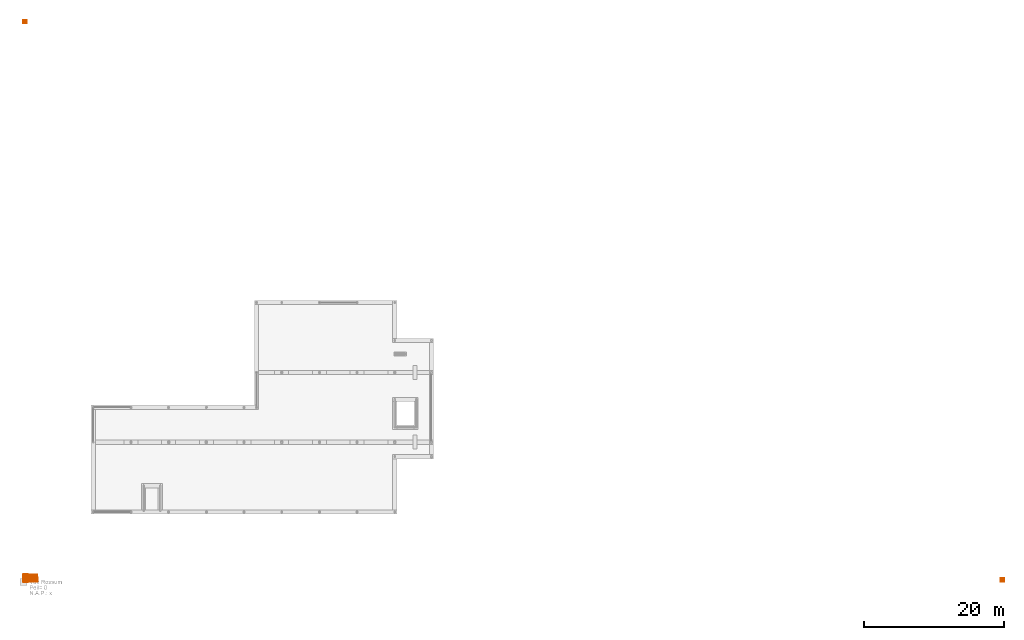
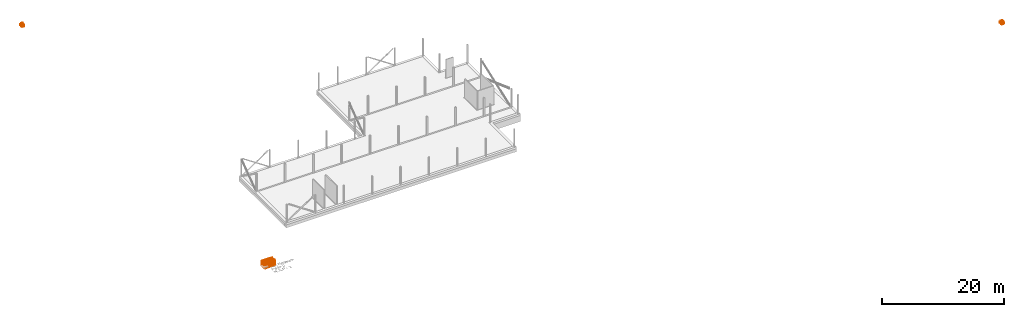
# One storey, part 12 of 12: 1 proxy.
"""IFC2X3 building model written with IfcOpenShell, lengths in millimetres."""

from ifc_helpers import new_model, entity, si_unit, converted_unit, derived_unit, direction, frame, frame_2d, origin, origin_2d_with_axis, place, context, subcontext, project, spatial, polyline, rectangle, outline, extrude, source, transform, mapped, material, material_list, type_object, type_shapes, element, save


model = new_model("IFC2X3")

# Units and contexts
model_context = context("Model", 3, precision=0.01, world=origin(), true_north=direction((6.123031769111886e-17, 1.0)))
body_context = subcontext(model_context, "Body", "Model", "MODEL_VIEW")
ifc_project = project(units=[si_unit("LENGTHUNIT", "METRE", prefix="MILLI"), si_unit("AREAUNIT", "SQUARE_METRE"), si_unit("VOLUMEUNIT", "CUBIC_METRE"), converted_unit("PLANEANGLEUNIT", "DEGREE", entity("IfcPlaneAngleMeasure", 0.017453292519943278), si_unit("PLANEANGLEUNIT", "RADIAN"), dimensions=[0, 0, 0, 0, 0, 0, 0]), si_unit("MASSUNIT", "GRAM", prefix="KILO"), derived_unit("MASSDENSITYUNIT", [(si_unit("MASSUNIT", "GRAM", prefix="KILO"), 1), (si_unit("LENGTHUNIT", "METRE"), -3)]), derived_unit("IONCONCENTRATIONUNIT", [(si_unit("MASSUNIT", "GRAM", prefix="KILO"), 1), (si_unit("LENGTHUNIT", "METRE"), -3)]), derived_unit("MOMENTOFINERTIAUNIT", [(si_unit("LENGTHUNIT", "METRE"), 4)]), si_unit("TIMEUNIT", "SECOND"), si_unit("FREQUENCYUNIT", "HERTZ"), si_unit("THERMODYNAMICTEMPERATUREUNIT", "DEGREE_CELSIUS"), derived_unit("THERMALTRANSMITTANCEUNIT", [(si_unit("MASSUNIT", "GRAM", prefix="KILO"), 1), (si_unit("THERMODYNAMICTEMPERATUREUNIT", "KELVIN"), -1), (si_unit("TIMEUNIT", "SECOND"), -3)]), derived_unit("THERMALCONDUCTANCEUNIT", [(si_unit("MASSUNIT", "GRAM", prefix="KILO"), 1), (si_unit("THERMODYNAMICTEMPERATUREUNIT", "KELVIN"), -1), (si_unit("TIMEUNIT", "SECOND"), -3), (si_unit("LENGTHUNIT", "METRE"), 1)]), derived_unit("VOLUMETRICFLOWRATEUNIT", [(si_unit("LENGTHUNIT", "METRE", prefix="DECI"), 3), (si_unit("TIMEUNIT", "SECOND"), -1)]), derived_unit("MASSFLOWRATEUNIT", [(si_unit("MASSUNIT", "GRAM", prefix="KILO"), 1), (si_unit("TIMEUNIT", "SECOND"), -1)]), derived_unit("ROTATIONALFREQUENCYUNIT", [(si_unit("TIMEUNIT", "SECOND"), -1)]), si_unit("ELECTRICCURRENTUNIT", "AMPERE"), si_unit("ELECTRICVOLTAGEUNIT", "VOLT"), si_unit("POWERUNIT", "WATT"), si_unit("FORCEUNIT", "NEWTON", prefix="KILO"), si_unit("ILLUMINANCEUNIT", "LUX"), si_unit("LUMINOUSFLUXUNIT", "LUMEN"), si_unit("LUMINOUSINTENSITYUNIT", "CANDELA"), si_unit("ENERGYUNIT", "JOULE"), derived_unit("USERDEFINED", [(si_unit("MASSUNIT", "GRAM", prefix="KILO"), -1), (si_unit("LENGTHUNIT", "METRE"), -2), (si_unit("TIMEUNIT", "SECOND"), 3), (si_unit("LUMINOUSFLUXUNIT", "LUMEN"), 1)]), derived_unit("USERDEFINED", [(si_unit("MASSUNIT", "GRAM", prefix="KILO"), 1), (si_unit("TIMEUNIT", "SECOND"), -3), (si_unit("LENGTHUNIT", "METRE"), 3), (si_unit("ELECTRICCURRENTUNIT", "AMPERE"), -2)]), derived_unit("SOUNDPOWERUNIT", [(si_unit("MASSUNIT", "GRAM", prefix="KILO"), 1), (si_unit("TIMEUNIT", "SECOND"), -3), (si_unit("LENGTHUNIT", "METRE"), 2)]), derived_unit("SOUNDPRESSUREUNIT", [(si_unit("MASSUNIT", "GRAM", prefix="KILO"), 1), (si_unit("LENGTHUNIT", "METRE"), -1), (si_unit("TIMEUNIT", "SECOND"), -2)]), derived_unit("LINEARVELOCITYUNIT", [(si_unit("LENGTHUNIT", "METRE"), 1), (si_unit("TIMEUNIT", "SECOND"), -1)]), si_unit("PRESSUREUNIT", "PASCAL"), derived_unit("USERDEFINED", [(si_unit("MASSUNIT", "GRAM", prefix="KILO"), 1), (si_unit("LENGTHUNIT", "METRE"), -2), (si_unit("TIMEUNIT", "SECOND"), -2)]), derived_unit("LINEARFORCEUNIT", [(si_unit("MASSUNIT", "GRAM", prefix="KILO"), 1), (si_unit("TIMEUNIT", "SECOND"), -2)]), derived_unit("PLANARFORCEUNIT", [(si_unit("MASSUNIT", "GRAM", prefix="KILO"), 1), (si_unit("LENGTHUNIT", "METRE"), -1), (si_unit("TIMEUNIT", "SECOND"), -2)]), derived_unit("SPECIFICHEATCAPACITYUNIT", [(si_unit("THERMODYNAMICTEMPERATUREUNIT", "KELVIN"), -1), (si_unit("LENGTHUNIT", "METRE"), 2), (si_unit("TIMEUNIT", "SECOND"), -2)]), derived_unit("HEATFLUXDENSITYUNIT", [(si_unit("MASSUNIT", "GRAM", prefix="KILO"), 1), (si_unit("TIMEUNIT", "SECOND"), -3)]), derived_unit("HEATINGVALUEUNIT", [(si_unit("LENGTHUNIT", "METRE"), 2), (si_unit("TIMEUNIT", "SECOND"), -2)]), derived_unit("VAPORPERMEABILITYUNIT", [(si_unit("LENGTHUNIT", "METRE"), -1), (si_unit("TIMEUNIT", "SECOND"), 1)]), derived_unit("DYNAMICVISCOSITYUNIT", [(si_unit("MASSUNIT", "GRAM", prefix="KILO"), 1), (si_unit("TIMEUNIT", "SECOND"), -1), (si_unit("LENGTHUNIT", "METRE"), -1)]), derived_unit("THERMALEXPANSIONCOEFFICIENTUNIT", [(si_unit("THERMODYNAMICTEMPERATUREUNIT", "KELVIN"), -1)]), derived_unit("MODULUSOFELASTICITYUNIT", [(si_unit("MASSUNIT", "GRAM", prefix="KILO"), 1), (si_unit("LENGTHUNIT", "METRE"), -1), (si_unit("TIMEUNIT", "SECOND"), -2)]), derived_unit("ISOTHERMALMOISTURECAPACITYUNIT", [(si_unit("MASSUNIT", "GRAM", prefix="KILO"), -1), (si_unit("LENGTHUNIT", "METRE"), 3)]), derived_unit("MOISTUREDIFFUSIVITYUNIT", [(si_unit("TIMEUNIT", "SECOND"), -1), (si_unit("LENGTHUNIT", "METRE"), 2)]), derived_unit("MASSPERLENGTHUNIT", [(si_unit("MASSUNIT", "GRAM", prefix="KILO"), 1), (si_unit("LENGTHUNIT", "METRE"), -1)]), derived_unit("THERMALRESISTANCEUNIT", [(si_unit("MASSUNIT", "GRAM", prefix="KILO"), -1), (si_unit("TIMEUNIT", "SECOND"), 3), (si_unit("THERMODYNAMICTEMPERATUREUNIT", "KELVIN"), 1)]), derived_unit("ACCELERATIONUNIT", [(si_unit("LENGTHUNIT", "METRE"), 1), (si_unit("TIMEUNIT", "SECOND"), -2)]), derived_unit("ANGULARVELOCITYUNIT", [(si_unit("TIMEUNIT", "SECOND"), -1), (si_unit("PLANEANGLEUNIT", "RADIAN"), 1)]), derived_unit("LINEARSTIFFNESSUNIT", [(si_unit("MASSUNIT", "GRAM", prefix="KILO"), 1), (si_unit("TIMEUNIT", "SECOND"), -2)]), derived_unit("WARPINGCONSTANTUNIT", [(si_unit("LENGTHUNIT", "METRE"), 6)]), derived_unit("LINEARMOMENTUNIT", [(si_unit("MASSUNIT", "GRAM", prefix="KILO"), 1), (si_unit("LENGTHUNIT", "METRE"), 1), (si_unit("TIMEUNIT", "SECOND"), -2)]), derived_unit("TORQUEUNIT", [(si_unit("MASSUNIT", "GRAM", prefix="KILO"), 1), (si_unit("LENGTHUNIT", "METRE"), 2), (si_unit("TIMEUNIT", "SECOND"), -2)])], contexts=[model_context])

# Site, building, storey
site_placement = place(None, origin())
site = spatial("IfcSite", under=ifc_project, at=site_placement, Name="Default", CompositionType="ELEMENT")
building_placement = place(site_placement, origin())
building = spatial("IfcBuilding", under=site, at=building_placement, CompositionType="ELEMENT")
storey_placement = place(building_placement, origin())
storey = spatial("IfcBuildingStorey", under=building, at=storey_placement, Name="00 begane grond", CompositionType="ELEMENT", Elevation=0.0)

# Proxy
ifc_material_1 = material(Name="VRI_tekst")
ifc_material_2 = material(Name="VRI_nulpunt")
ifc_material_list = material_list([ifc_material_1, ifc_material_2])
building_element_proxy_type = type_object("IfcBuildingElementProxyType", Name="000_00_VRI_nulpunt_1:000_00_VRI_nulpunt_1", PredefinedType="NOTDEFINED", material=ifc_material_list)
shared_shape = source(origin(), body_context, "Body", "SweptSolid", [
    extrude(outline(polyline([(-14.262820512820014, -127.89797008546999), (17.528044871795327, -127.89797008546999), (111.3381410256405, 118.25587606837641), (78.40544871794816, 118.25587606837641), (12.660256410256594, -59.08787393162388), (-0.4407051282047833, -99.05181623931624), (-13.721955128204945, -59.08787393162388), (-79.28685897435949, 118.2558760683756), (-112.21955128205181, 118.2558760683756), (-14.262820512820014, -127.89797008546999)])), frame((488.22986288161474, 1000.0, 763.3739638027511), z_axis=(0.0, 1.0, 0.0), x_axis=(-1.0, 0.0, 0.0)), (0.0, 0.0, 1.0), 50.0),
    extrude(outline(polyline([(-126.35779747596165, -126.81540464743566), (-95.58856670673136, -126.81540464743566), (-95.58856670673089, -19.12309695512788), (-58.44914362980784, -19.12309695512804), (-40.600585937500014, -20.2048277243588), (-25.96717247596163, -26.06420272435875), (-9.711162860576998, -42.01973157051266), (13.425856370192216, -75.79377003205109), (45.45710637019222, -126.81540464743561), (81.2143179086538, -126.81540464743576), (40.16864483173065, -60.10867387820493), (15.228740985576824, -28.438000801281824), (-2.2592397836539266, -15.276943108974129), (28.051757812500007, -7.118890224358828), (49.27321213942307, 7.619691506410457), (61.78072415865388, 27.721854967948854), (65.94989483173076, 51.9706530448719), (63.433368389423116, 71.46434294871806), (55.883789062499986, 89.20022035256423), (44.119966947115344, 103.5031049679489), (28.96071213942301, 112.69781650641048), (8.220027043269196, 117.67828525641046), (-20.288085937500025, 119.33844150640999), (-126.35779747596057, 119.33844150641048), (-126.35779747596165, -126.81540464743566)]), holes=[polyline([(-95.58856670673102, 11.646133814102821), (-95.58856670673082, 88.56921073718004), (-18.96597055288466, 88.5692107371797), (5.380483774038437, 85.90995592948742), (22.169846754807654, 77.93219150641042), (31.927959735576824, 65.83784054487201), (35.18066406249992, 50.828826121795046), (33.47543569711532, 39.958934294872), (28.359750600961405, 29.945412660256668), (19.961313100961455, 21.667167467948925), (8.407827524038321, 16.00310496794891), (-26.71837439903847, 11.646133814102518), (-95.58856670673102, 11.646133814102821)])]), frame((221.92815514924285, 1000.0, 762.2913983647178), z_axis=(0.0, 1.0, 0.0), x_axis=(-1.0, 0.0, 0.0)), (0.0, 0.0, 1.0), 50.0),
    extrude(rectangle(XDim=50.0, YDim=30.76923076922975, at=frame_2d((-6.750155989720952e-14, 0.0), x_axis=(1.0, 0.0))), frame((82.90133724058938, 1025.0, 635.4759937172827), z_axis=(0.0, 0.0, 1.0), x_axis=(0.0, -1.0, 0.0)), (0.0, 0.0, 1.0), 246.15384615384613),
    extrude(outline(polyline([(-14.262820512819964, -127.89797008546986), (17.52804487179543, -127.89797008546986), (111.3381410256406, 118.25587606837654), (78.40544871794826, 118.25587606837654), (12.660256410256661, -59.08787393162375), (-0.44070512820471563, -99.05181623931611), (-13.72195512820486, -59.08787393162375), (-79.28685897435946, 118.25587606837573), (-112.21955128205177, 118.25587606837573), (-14.262820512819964, -127.89797008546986)])), frame((2000.0, 165.19126889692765, 776.3433876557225), z_axis=(1.0, 0.0, 0.0), x_axis=(0.0, 1.0, 0.0)), (0.0, 0.0, 1.0), 50.0),
    extrude(outline(polyline([(-126.35779747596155, -126.8154046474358), (-95.58856670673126, -126.8154046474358), (-95.58856670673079, -19.123096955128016), (-58.44914362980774, -19.123096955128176), (-40.600585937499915, -20.204827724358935), (-25.967172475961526, -26.064202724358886), (-9.711162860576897, -42.019731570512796), (13.425856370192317, -75.79377003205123), (45.45710637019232, -126.81540464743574), (81.2143179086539, -126.8154046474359), (40.16864483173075, -60.10867387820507), (15.228740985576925, -28.43800080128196), (-2.2592397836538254, -15.276943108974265), (28.051757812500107, -7.118890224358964), (49.27321213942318, 7.619691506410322), (61.78072415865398, 27.72185496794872), (65.94989483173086, 51.97065304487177), (63.433368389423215, 71.46434294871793), (55.883789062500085, 89.2002203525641), (44.11996694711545, 103.50310496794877), (28.960712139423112, 112.69781650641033), (8.220027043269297, 117.67828525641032), (-20.288085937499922, 119.33844150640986), (-126.35779747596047, 119.33844150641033), (-126.35779747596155, -126.8154046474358)]), holes=[polyline([(-95.58856670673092, 11.646133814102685), (-95.58856670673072, 88.5692107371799), (-18.965970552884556, 88.56921073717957), (5.380483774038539, 85.9099559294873), (22.169846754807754, 77.93219150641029), (31.927959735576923, 65.83784054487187), (35.18066406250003, 50.82882612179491), (33.47543569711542, 39.95893429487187), (28.359750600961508, 29.945412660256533), (19.961313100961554, 21.66716746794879), (8.407827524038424, 16.003104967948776), (-26.718374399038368, 11.646133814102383), (-95.58856670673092, 11.646133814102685)])]), frame((2000.0, 431.4929766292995, 775.2608222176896), z_axis=(1.0, 0.0, 0.0), x_axis=(0.0, 1.0, 0.0)), (0.0, 0.0, 1.0), 50.0),
    extrude(rectangle(XDim=50.0, YDim=30.76923076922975, at=frame_2d((1.3500311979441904e-13, 3.375077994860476e-14), x_axis=(1.0, 0.0))), frame((2025.0, 570.5197945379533, 648.4454175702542), z_axis=(0.0, 0.0, 1.0), x_axis=(-1.0, 0.0, 0.0)), (0.0, 0.0, 1.0), 246.15384615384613),
    extrude(outline(polyline([(-113.56049187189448, -60.54199771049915), (151.36824775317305, -60.54199771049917), (139.1914681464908, -29.94316993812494), (-49.826793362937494, -34.597103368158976), (-91.86929110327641, -37.03363165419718), (-59.5815492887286, -10.084538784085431), (80.88513659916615, 116.57384479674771), (68.70835699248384, 147.17267256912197), (-125.31508386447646, -31.004078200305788), (-113.56049187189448, -60.54199771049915)])), frame((-50.0, 516.7560067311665, 775.4731968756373), z_axis=(1.0, 0.0, 0.0), x_axis=(0.0, 0.3697474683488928, 0.9291322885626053)), (0.0, 0.0, 1.0), 50.0),
    extrude(outline(polyline([(-126.81540464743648, -126.35779747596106), (119.33844150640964, -126.35779747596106), (119.33844150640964, -20.288085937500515), (117.67828525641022, 8.220027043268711), (112.69781650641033, 28.96071213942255), (103.50310496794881, 44.119966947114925), (89.20022035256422, 55.88378906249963), (71.46434294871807, 63.43336838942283), (51.970653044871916, 65.94989483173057), (27.721854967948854, 61.7807241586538), (7.619691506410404, 49.27321213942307), (-7.118890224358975, 28.051757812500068), (-15.276943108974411, -2.259239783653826), (-28.438000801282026, 15.228740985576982), (-60.108673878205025, 40.168644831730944), (-126.81540464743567, 81.2143179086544), (-126.81540464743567, 45.45710637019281), (-75.7937700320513, 13.425856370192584), (-42.019731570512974, -9.711162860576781), (-26.064202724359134, -25.96717247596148), (-20.204827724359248, -40.600585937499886), (-19.12309695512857, -58.44914362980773), (-19.12309695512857, -95.58856670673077), (-126.81540464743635, -95.58856670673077), (-126.81540464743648, -126.35779747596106)]), holes=[polyline([(11.646133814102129, -95.58856670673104), (11.646133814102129, -26.71837439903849), (16.003104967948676, 8.407827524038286), (21.667167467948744, 19.96131310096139), (29.945412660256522, 28.35975060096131), (39.958934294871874, 33.47543569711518), (50.82882612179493, 35.18066406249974), (65.83784054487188, 31.927959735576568), (77.93219150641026, 22.169846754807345), (85.90995592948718, 5.380483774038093), (88.56921073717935, -18.965970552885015), (88.56921073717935, -95.58856670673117), (11.646133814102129, -95.58856670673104)])]), frame((-50.0, 250.45429899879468, 774.3906314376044), z_axis=(1.0, 0.0, 0.0), x_axis=(0.0, 0.0, 1.0)), (0.0, 0.0, 1.0), 50.000000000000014),
    extrude(rectangle(XDim=50.0, YDim=30.76923076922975, at=frame_2d((0.0, -8.881784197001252e-15), x_axis=(1.0, 0.0))), frame((-25.0, 111.42748109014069, 647.575226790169)), (0.0, 0.0, 1.0), 246.15384615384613),
    extrude(outline(polyline([(-113.56049187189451, -60.54199771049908), (151.3682477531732, -60.54199771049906), (139.19146814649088, -29.94316993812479), (-49.82679336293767, -34.59710336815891), (-91.86929110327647, -37.033631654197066), (-59.58154928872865, -10.084538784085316), (80.88513659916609, 116.57384479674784), (68.70835699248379, 147.1726725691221), (-125.3150838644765, -31.00407820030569), (-113.56049187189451, -60.54199771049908)])), frame((177.68934770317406, -50.0, 763.2188166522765), z_axis=(0.0, 1.0, 0.0), x_axis=(-0.36974746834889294, 0.0, 0.9291322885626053)), (0.0, 0.0, 1.0), 50.0),
    extrude(outline(polyline([(-126.81540464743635, -126.35779747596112), (119.33844150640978, -126.35779747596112), (119.33844150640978, -20.288085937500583), (117.67828525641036, 8.220027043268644), (112.69781650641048, 28.96071213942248), (103.50310496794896, 44.119966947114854), (89.20022035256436, 55.88378906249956), (71.46434294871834, 63.43336838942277), (51.970653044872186, 65.9498948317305), (27.721854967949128, 61.780724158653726), (7.619691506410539, 49.27321213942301), (-7.1188902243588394, 28.0517578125), (-15.276943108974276, -2.2592397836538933), (-28.43800080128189, 15.228740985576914), (-60.10867387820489, 40.16864483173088), (-126.81540464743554, 81.21431790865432), (-126.81540464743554, 45.45710637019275), (-75.79377003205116, 13.425856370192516), (-42.01973157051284, -9.711162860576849), (-26.064202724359, -25.967172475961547), (-20.204827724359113, -40.60058593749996), (-19.123096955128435, -58.44914362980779), (-19.123096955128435, -95.58856670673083), (-126.81540464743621, -95.58856670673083), (-126.81540464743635, -126.35779747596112)]), holes=[polyline([(11.646133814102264, -95.5885667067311), (11.646133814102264, -26.718374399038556), (16.00310496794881, 8.407827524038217), (21.66716746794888, 19.961313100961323), (29.945412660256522, 28.35975060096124), (39.95893429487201, 33.47543569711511), (50.82882612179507, 35.180664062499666), (65.83784054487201, 31.9279597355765), (77.93219150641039, 22.169846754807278), (85.90995592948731, 5.380483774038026), (88.56921073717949, -18.965970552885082), (88.56921073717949, -95.58856670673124), (11.646133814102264, -95.5885667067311)])]), frame((443.99105543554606, -50.0, 762.1362512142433), z_axis=(0.0, 1.0, 0.0), x_axis=(0.0, 0.0, 1.0)), (0.0, 0.0, 1.0), 50.0),
    extrude(rectangle(XDim=50.0, YDim=30.76923076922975, at=origin_2d_with_axis()), frame((583.0178733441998, -25.0, 635.3208465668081), z_axis=(0.0, 0.0, 1.0), x_axis=(0.0, 1.0, 0.0)), (0.0, 0.0, 1.0), 246.15384615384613),
    extrude(rectangle(XDim=499.9999999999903, YDim=500.00000000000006, at=origin_2d_with_axis()), frame((250.0, 80250.0, 0.0), z_axis=(0.0, 0.0, 1.0), x_axis=(0.0, -1.0, 0.0)), (0.0, 0.0, 1.0), 500.00000000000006),
    extrude(rectangle(XDim=499.99999999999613, YDim=500.0000000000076, at=frame_2d((0.0, -8.668621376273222e-12), x_axis=(1.0, 0.0))), frame((140250.0, 250.0, 0.0), z_axis=(0.0, 0.0, 1.0), x_axis=(0.0, 1.0, 0.0)), (0.0, 0.0, 1.0), 500.00000000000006),
    extrude(rectangle(XDim=2000.0000000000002, YDim=999.9999999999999, at=frame_2d((-1.1368683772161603e-13, 0.0), x_axis=(1.0, 0.0))), frame((1000.0, 500.0, 0.0), z_axis=(0.0, 0.0, 1.0), x_axis=(-1.0, 0.0, 0.0)), (0.0, 0.0, 1.0), 1000.0000000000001),
])
type_shapes(building_element_proxy_type, [shared_shape])
proxy_placement = place(storey_placement, origin())
element("IfcBuildingElementProxy", 1, at=proxy_placement, inside=storey, type_object=building_element_proxy_type, material=ifc_material_list, Name="000_00_VRI_nulpunt_1:000_00_VRI_nulpunt_1", ObjectType="000_00_VRI_nulpunt_1:000_00_VRI_nulpunt_1", context=body_context, shape_type="MappedRepresentation", body=[
    mapped(shared_shape, transform((0.0, 0.0, 0.0), scale=1.0)),
])

save(model, "model.ifc")
